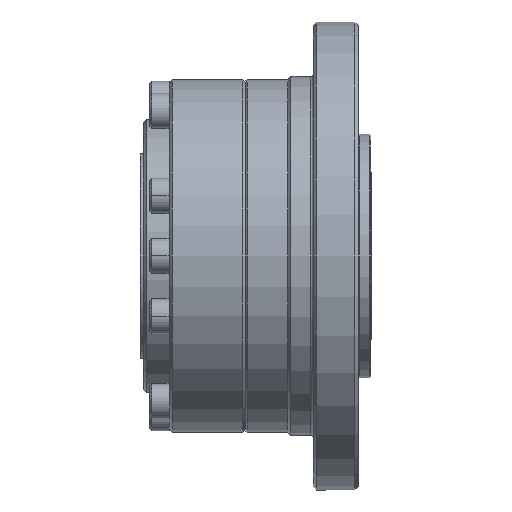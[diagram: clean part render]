
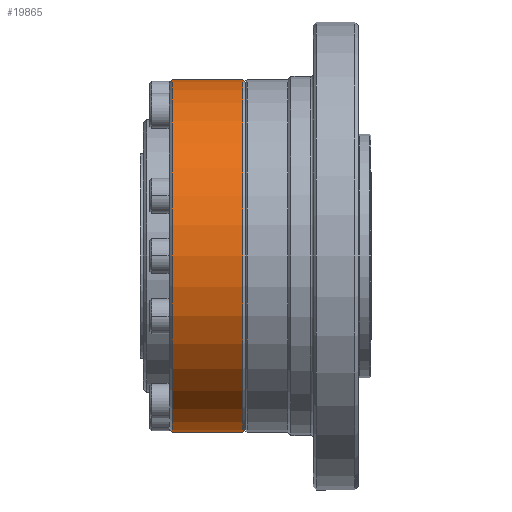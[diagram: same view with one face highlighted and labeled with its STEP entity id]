
A CAD part, front view. The second image highlights one B-rep face of the part: STEP entity #19865.
In plain terms, the highlighted cylindrical face has radius 27.5 mm (diameter 55 mm), a partial arc.
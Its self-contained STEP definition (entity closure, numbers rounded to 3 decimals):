
#57 = LINE ( 'NONE', #20977, #4731 ) ;
#521 = EDGE_CURVE ( 'NONE', #22542, #3810, #1816, .T. ) ;
#1291 = DIRECTION ( 'NONE',  ( -1., 0., 0. ) ) ;
#1714 = DIRECTION ( 'NONE',  ( -1., 0., 0. ) ) ;
#1816 = CIRCLE ( 'NONE', #4055, 27.5 ) ;
#2682 = CARTESIAN_POINT ( 'NONE',  ( -22.708, 0.104, 45.5 ) ) ;
#2828 = CARTESIAN_POINT ( 'NONE',  ( -22.708, 0.104, 100.5 ) ) ;
#3119 = VECTOR ( 'NONE', #10861, 1000. ) ;
#3380 = CIRCLE ( 'NONE', #14551, 27.5 ) ;
#3810 = VERTEX_POINT ( 'NONE', #16309 ) ;
#4055 = AXIS2_PLACEMENT_3D ( 'NONE', #6025, #13032, #7952 ) ;
#4386 = EDGE_CURVE ( 'NONE', #11420, #22542, #21869, .T. ) ;
#4731 = VECTOR ( 'NONE', #1714, 1000. ) ;
#5186 = FACE_OUTER_BOUND ( 'NONE', #12266, .T. ) ;
#5265 = EDGE_CURVE ( 'NONE', #14434, #11420, #3380, .T. ) ;
#5999 = EDGE_CURVE ( 'NONE', #14434, #3810, #57, .T. ) ;
#6025 = CARTESIAN_POINT ( 'NONE',  ( -33.708, 0.104, 73. ) ) ;
#6565 = DIRECTION ( 'NONE',  ( -1., 0., 0. ) ) ;
#6729 = ORIENTED_EDGE ( 'NONE', *, *, #521, .T. ) ;
#7799 = ORIENTED_EDGE ( 'NONE', *, *, #5999, .F. ) ;
#7952 = DIRECTION ( 'NONE',  ( 0., 0., 1. ) ) ;
#10861 = DIRECTION ( 'NONE',  ( -1., 0., 0. ) ) ;
#11420 = VERTEX_POINT ( 'NONE', #2828 ) ;
#11850 = CARTESIAN_POINT ( 'NONE',  ( -22.708, 0.104, 73. ) ) ;
#12266 = EDGE_LOOP ( 'NONE', ( #7799, #21415, #22611, #6729 ) ) ;
#13032 = DIRECTION ( 'NONE',  ( 1., 0., 0. ) ) ;
#13574 = CARTESIAN_POINT ( 'NONE',  ( -22.208, 0.104, 73. ) ) ;
#13622 = DIRECTION ( 'NONE',  ( 0., 0., -1. ) ) ;
#14434 = VERTEX_POINT ( 'NONE', #2682 ) ;
#14551 = AXIS2_PLACEMENT_3D ( 'NONE', #11850, #1291, #13622 ) ;
#16309 = CARTESIAN_POINT ( 'NONE',  ( -33.708, 0.104, 45.5 ) ) ;
#18882 = DIRECTION ( 'NONE',  ( 0., 0., 1. ) ) ;
#19601 = CARTESIAN_POINT ( 'NONE',  ( -33.708, 0.104, 100.5 ) ) ;
#19865 = ADVANCED_FACE ( 'NONE', ( #5186 ), #22805, .T. ) ;
#20798 = AXIS2_PLACEMENT_3D ( 'NONE', #13574, #6565, #18882 ) ;
#20977 = CARTESIAN_POINT ( 'NONE',  ( -22.208, 0.104, 45.5 ) ) ;
#21385 = CARTESIAN_POINT ( 'NONE',  ( -22.208, 0.104, 100.5 ) ) ;
#21415 = ORIENTED_EDGE ( 'NONE', *, *, #5265, .T. ) ;
#21869 = LINE ( 'NONE', #21385, #3119 ) ;
#22542 = VERTEX_POINT ( 'NONE', #19601 ) ;
#22611 = ORIENTED_EDGE ( 'NONE', *, *, #4386, .T. ) ;
#22805 = CYLINDRICAL_SURFACE ( 'NONE', #20798, 27.5 ) ;
